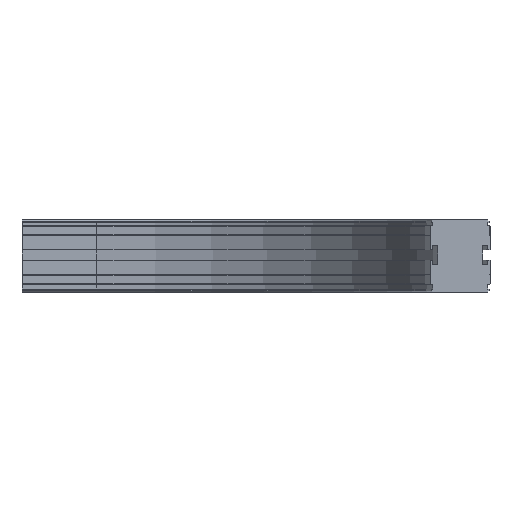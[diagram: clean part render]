
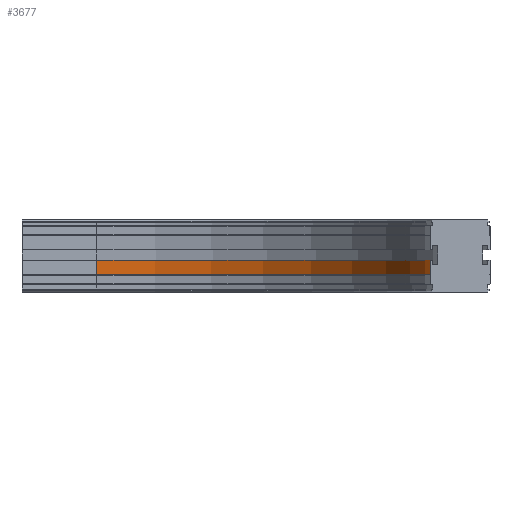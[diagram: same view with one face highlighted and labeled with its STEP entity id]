
A CAD part, front view. The second image highlights one B-rep face of the part: STEP entity #3677.
In plain terms, the highlighted cylindrical face has radius 357 mm (diameter 714 mm), a partial arc.
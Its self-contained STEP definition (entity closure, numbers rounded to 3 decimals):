
#2334=CARTESIAN_POINT('',(437.,-389.,-58.5));
#2335=VERTEX_POINT('',#2334);
#2365=CARTESIAN_POINT('',(437.,-389.,-43.5));
#2366=VERTEX_POINT('',#2365);
#2373=CARTESIAN_POINT('',(437.,-389.,-58.5));
#2374=DIRECTION('',(0.0,0.0,1.0));
#2375=VECTOR('',#2374,15.);
#2376=LINE('',#2373,#2375);
#2377=EDGE_CURVE('',#2335,#2366,#2376,.T.);
#3634=CARTESIAN_POINT('',(80.0,-32.0,-58.5));
#3635=VERTEX_POINT('',#3634);
#3636=CARTESIAN_POINT('',(80.,-389.,-58.5));
#3637=DIRECTION('',(0.0,0.0,-1.0));
#3638=DIRECTION('',(-1.0,0.0,0.0));
#3639=AXIS2_PLACEMENT_3D('',#3636,#3637,#3638);
#3640=CIRCLE('',#3639,357.);
#3641=EDGE_CURVE('',#3635,#2335,#3640,.T.);
#3653=CARTESIAN_POINT('',(80.,-389.,-51.));
#3654=DIRECTION('',(0.0,0.0,-1.0));
#3655=DIRECTION('',(-1.0,0.0,0.0));
#3656=AXIS2_PLACEMENT_3D('',#3653,#3654,#3655);
#3657=CYLINDRICAL_SURFACE('',#3656,357.);
#3658=ORIENTED_EDGE('',*,*,#2377,.T.);
#3659=CARTESIAN_POINT('',(80.0,-32.0,-43.5));
#3660=VERTEX_POINT('',#3659);
#3661=CARTESIAN_POINT('',(80.,-389.,-43.5));
#3662=DIRECTION('',(0.0,0.0,-1.0));
#3663=DIRECTION('',(-1.0,0.0,0.0));
#3664=AXIS2_PLACEMENT_3D('',#3661,#3662,#3663);
#3665=CIRCLE('',#3664,357.);
#3666=EDGE_CURVE('',#3660,#2366,#3665,.T.);
#3667=ORIENTED_EDGE('',*,*,#3666,.F.);
#3668=CARTESIAN_POINT('',(80.0,-32.0,-58.5));
#3669=DIRECTION('',(0.0,0.0,1.0));
#3670=VECTOR('',#3669,15.);
#3671=LINE('',#3668,#3670);
#3672=EDGE_CURVE('',#3635,#3660,#3671,.T.);
#3673=ORIENTED_EDGE('',*,*,#3672,.F.);
#3674=ORIENTED_EDGE('',*,*,#3641,.T.);
#3675=EDGE_LOOP('',(#3658,#3667,#3673,#3674));
#3676=FACE_OUTER_BOUND('',#3675,.T.);
#3677=ADVANCED_FACE('',(#3676),#3657,.F.);
